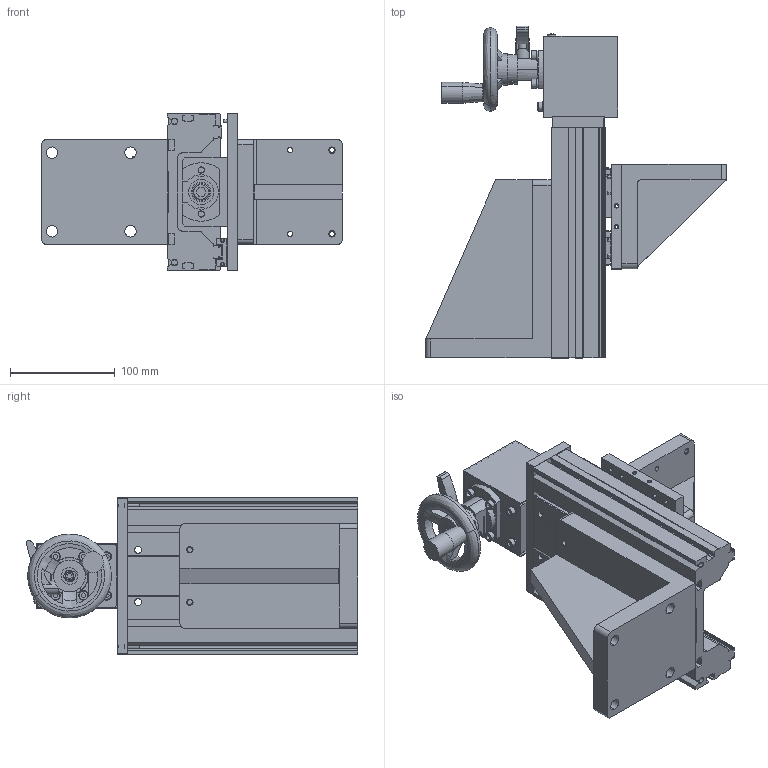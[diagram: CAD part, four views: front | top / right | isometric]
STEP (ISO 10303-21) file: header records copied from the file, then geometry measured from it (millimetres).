
FILE_DESCRIPTION (( 'STEP AP203' ), '1' );
FILE_NAME ('PT-SD220C.STEP', '2022-04-10T08:29:24', ( '' ), ( '' ), 'SwSTEP 2.0', 'SolidWorks 2017', '' );
FILE_SCHEMA (( 'CONFIG_CONTROL_DESIGN' ));
Length unit declared in the file: millimetre
Products named in the file (1): PT-SD220C
Bounding box: 287.5 x 317 x 150 mm (x, y, z)
Surface area: 415660.8 mm2 (no closed solid volume)
Topology: 0 solids, 61 shells, 839 faces, 2967 edges, 2186 vertices
Faces by surface type: plane 453, cylinder 266, cone 104, bspline 16
Entity records: 33239 total; most frequent: CARTESIAN_POINT 7195, DIRECTION 5548, ORIENTED_EDGE 4727, EDGE_CURVE 2963, VERTEX_POINT 2184, VECTOR 1894, LINE 1894, AXIS2_PLACEMENT_3D 1827
